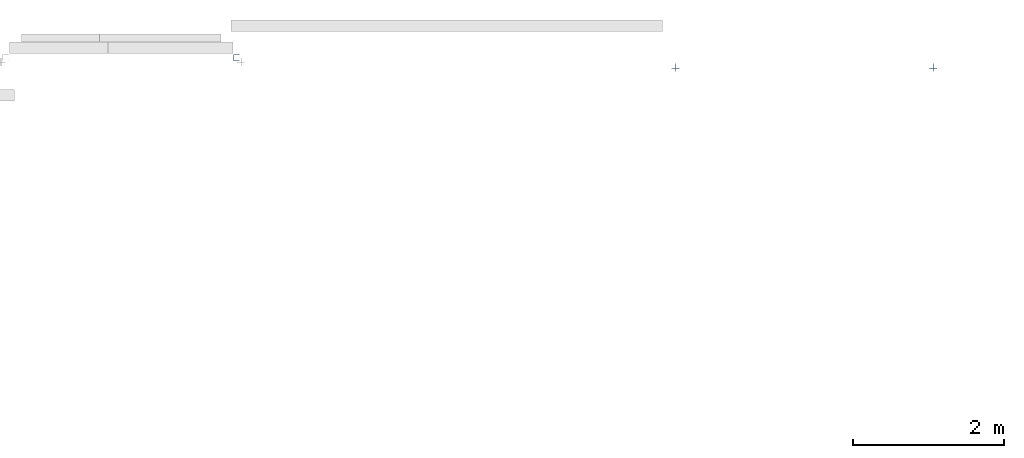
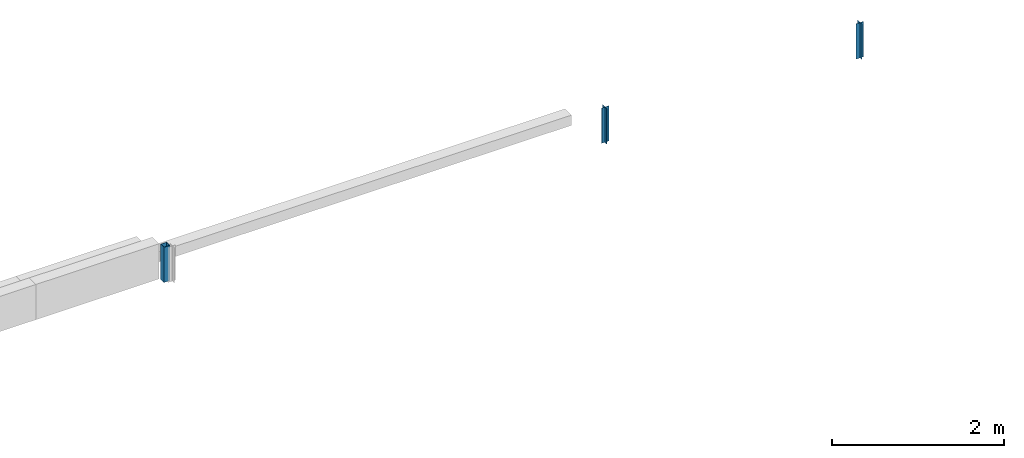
# One storey, part 3 of 3: 3 columns.
"""IFC2X3 building model written with IfcOpenShell, lengths in millimetres."""

from ifc_helpers import new_model, entity, si_unit, converted_unit, derived_unit, direction, frame, origin_with_axes, place, context, subcontext, project, spatial, faceted_brep, material, type_object, element, save


model = new_model("IFC2X3")

# Units and contexts
model_context = context("Model", 3, precision=0.01, world=frame((0.0, 4.29681676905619e-09, 0.0)), true_north=direction((4.01073788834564e-13, 1.0)))
plan_context = context("Plan", 3, precision=0.01, world=frame((0.0, 4.29681676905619e-09, 0.0)), true_north=direction((4.01073788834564e-13, 1.0)))
body_context = subcontext(model_context, "Body", "Model", "MODEL_VIEW")
ifc_project = project(units=[converted_unit("PLANEANGLEUNIT", "DEGREE", entity("IfcPositiveLengthMeasure", 0.0174532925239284), si_unit("PLANEANGLEUNIT", "RADIAN"), dimensions=[0, 0, 0, 0, 0, 0, 0]), si_unit("AREAUNIT", "SQUARE_METRE"), si_unit("LENGTHUNIT", "METRE", prefix="MILLI"), si_unit("MASSUNIT", "GRAM", prefix="KILO"), si_unit("POWERUNIT", "WATT"), si_unit("PRESSUREUNIT", "PASCAL"), si_unit("FORCEUNIT", "NEWTON", prefix="KILO"), si_unit("ELECTRICVOLTAGEUNIT", "VOLT"), si_unit("ELECTRICCURRENTUNIT", "AMPERE"), si_unit("THERMODYNAMICTEMPERATUREUNIT", "DEGREE_CELSIUS"), si_unit("TIMEUNIT", "SECOND"), si_unit("VOLUMEUNIT", "CUBIC_METRE"), derived_unit("LINEARVELOCITYUNIT", [(si_unit("LENGTHUNIT", "METRE"), 1), (si_unit("TIMEUNIT", "SECOND"), -1)]), derived_unit("VOLUMETRICFLOWRATEUNIT", [(si_unit("VOLUMEUNIT", "CUBIC_METRE"), 1), (si_unit("TIMEUNIT", "SECOND"), -1)]), derived_unit("THERMALTRANSMITTANCEUNIT", [(si_unit("POWERUNIT", "WATT"), 1), (si_unit("THERMODYNAMICTEMPERATUREUNIT", "KELVIN"), -1), (si_unit("AREAUNIT", "SQUARE_METRE"), -1)]), derived_unit("SOUNDPRESSUREUNIT", [(si_unit("PRESSUREUNIT", "PASCAL"), 1)])], contexts=[model_context, plan_context])

# Site, building, storey
site_placement = place(None, origin_with_axes())
site = spatial("IfcSite", under=ifc_project, at=site_placement, Name="ENGM", CompositionType="ELEMENT")
building_placement = place(site_placement, origin_with_axes())
building = spatial("IfcBuilding", under=site, at=building_placement, Name="TI", CompositionType="ELEMENT")
storey_placement = place(building_placement, frame((0.0, 0.0, 213700.0), z_axis=(0.0, 0.0, 1.0), x_axis=(1.0, 0.0, 0.0)))
storey = spatial("IfcBuildingStorey", under=building, at=storey_placement, Name="Nivå G - 2,0m", CompositionType="ELEMENT", Elevation=213700.0)

# Columns
ifc_material_1 = material(Name="_NSW Stål")
column_type_1 = type_object("IfcColumnType", Name="B222 - HUP:B222 - HUP - 80 x 80 x 5 mm", PredefinedType="COLUMN", material=ifc_material_1)
column_1_placement = place(storey_placement, frame((602059.506445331, 698973.999999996, -213700.0), z_axis=(0.0, 0.0, 1.0), x_axis=(1.0, 0.0, 0.0)))
element("IfcColumn", 1, at=column_1_placement, inside=storey, type_object=column_type_1, Name="B222 - HUP:B222 - HUP - 80 x 80 x 5 mm", ObjectType="B222 - HUP:B222 - HUP - 80 x 80 x 5 mm", context=body_context, shape_type="Brep", body=[
    faceted_brep([(34.9620193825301, 32.9341204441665, 214200.0), (35.0, 32.4999999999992, 214200.0), (35.0, 32.4999999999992, 213700.0), (34.9620193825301, 32.9341204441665, 213700.0), (35.0, -32.5000000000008, 214200.0), (35.0, -32.5000000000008, 213700.0), (34.9692208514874, -32.8910861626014, 214200.0), (34.9692208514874, -32.8910861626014, 213700.0), (34.8776412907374, -33.2725424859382, 214200.0), (34.8776412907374, -33.2725424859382, 213700.0), (34.7275163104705, -33.6349762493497, 214200.0), (34.7275163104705, -33.6349762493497, 213700.0), (34.5225424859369, -33.969463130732, 214200.0), (34.5225424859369, -33.969463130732, 213700.0), (34.2677669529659, -34.2677669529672, 214200.0), (34.2677669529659, -34.2677669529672, 213700.0), (33.9694631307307, -34.5225424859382, 214200.0), (33.9694631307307, -34.5225424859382, 213700.0), (33.6349762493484, -34.7275163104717, 214200.0), (33.6349762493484, -34.7275163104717, 213700.0), (33.2725424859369, -34.8776412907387, 214200.0), (33.2725424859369, -34.8776412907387, 213700.0), (32.8910861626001, -34.9692208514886, 214200.0), (32.8910861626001, -34.9692208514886, 213700.0), (32.4999999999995, -35.0000000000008, 214200.0), (32.4999999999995, -35.0000000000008, 213700.0), (-32.4999999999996, -35.0000000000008, 214200.0), (-32.4999999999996, -35.0000000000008, 213700.0), (-32.9341204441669, -34.9620193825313, 214200.0), (-32.9341204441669, -34.9620193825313, 213700.0), (-33.3550503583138, -34.8492315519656, 214200.0), (-33.3550503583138, -34.8492315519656, 213700.0), (-33.7499999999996, -34.6650635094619, 214200.0), (-33.7499999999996, -34.6650635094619, 213700.0), (-34.1069690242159, -34.4151111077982, 214200.0), (-34.1069690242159, -34.4151111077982, 213700.0), (-34.415111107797, -34.1069690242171, 214200.0), (-34.415111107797, -34.1069690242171, 213700.0), (-34.6650635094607, -33.7500000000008, 214200.0), (-34.6650635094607, -33.7500000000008, 213700.0), (-34.8492315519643, -33.355050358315, 214200.0), (-34.8492315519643, -33.355050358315, 213700.0), (-34.9620193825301, -32.9341204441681, 214200.0), (-34.9620193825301, -32.9341204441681, 213700.0), (-35.0, -32.5000000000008, 214200.0), (-35.0, -32.5000000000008, 213700.0), (-35.0, 32.4999999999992, 214200.0), (-35.0, 32.4999999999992, 213700.0), (-34.9620193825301, 32.9341204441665, 214200.0), (-34.9620193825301, 32.9341204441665, 213700.0), (-34.8492315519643, 33.3550503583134, 214200.0), (-34.8492315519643, 33.3550503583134, 213700.0), (-34.6650635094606, 33.7499999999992, 214200.0), (-34.6650635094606, 33.7499999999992, 213700.0), (-34.415111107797, 34.1069690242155, 214200.0), (-34.415111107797, 34.1069690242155, 213700.0), (-34.1069690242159, 34.4151111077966, 214200.0), (-34.1069690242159, 34.4151111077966, 213700.0), (-33.7499999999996, 34.6650635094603, 214200.0), (-33.7499999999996, 34.6650635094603, 213700.0), (-33.3550503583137, 34.8492315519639, 214200.0), (-33.3550503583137, 34.8492315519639, 213700.0), (-32.9341204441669, 34.9620193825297, 214200.0), (-32.9341204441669, 34.9620193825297, 213700.0), (-32.4999999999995, 35.0, 214200.0), (-32.4999999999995, 35.0, 213700.0), (32.4999999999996, 35.0, 214200.0), (32.4999999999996, 35.0, 213700.0), (32.9341204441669, 34.9620193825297, 214200.0), (32.9341204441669, 34.9620193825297, 213700.0), (33.3550503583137, 34.8492315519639, 214200.0), (33.3550503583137, 34.8492315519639, 213700.0), (33.7499999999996, 34.6650635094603, 214200.0), (33.7499999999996, 34.6650635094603, 213700.0), (34.1069690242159, 34.4151111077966, 214200.0), (34.1069690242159, 34.4151111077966, 213700.0), (34.415111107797, 34.1069690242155, 214200.0), (34.415111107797, 34.1069690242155, 213700.0), (34.6650635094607, 33.7499999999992, 214200.0), (34.6650635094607, 33.7499999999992, 213700.0), (34.8492315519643, 33.3550503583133, 214200.0), (34.8492315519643, 33.3550503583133, 213700.0), (35.0, 40.0, 214200.0), (-35.0000000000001, 40.0, 214200.0), (-35.0000000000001, 40.0, 213700.0), (35.0, 40.0, 213700.0), (-35.8682408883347, 39.924038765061, 214200.0), (-35.8682408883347, 39.924038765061, 213700.0), (-36.7101007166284, 39.6984631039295, 214200.0), (-36.7101007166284, 39.6984631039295, 213700.0), (-37.5, 39.3301270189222, 214200.0), (-37.5, 39.3301270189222, 213700.0), (-38.2139380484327, 38.8302222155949, 214200.0), (-38.2139380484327, 38.8302222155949, 213700.0), (-38.8302222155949, 38.2139380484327, 214200.0), (-38.8302222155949, 38.2139380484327, 213700.0), (-39.3301270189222, 37.5, 214200.0), (-39.3301270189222, 37.5, 213700.0), (-39.6984631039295, 36.7101007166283, 214200.0), (-39.6984631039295, 36.7101007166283, 213700.0), (-39.924038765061, 35.8682408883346, 214200.0), (-39.924038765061, 35.8682408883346, 213700.0), (-40.0, 35.0, 214200.0), (-40.0, 35.0, 213700.0), (-40.0, -35.0, 214200.0), (-40.0, -35.0, 213700.0), (-39.924038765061, -35.8682408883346, 214200.0), (-39.924038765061, -35.8682408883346, 213700.0), (-39.6984631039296, -36.7101007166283, 214200.0), (-39.6984631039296, -36.7101007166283, 213700.0), (-39.3301270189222, -37.5, 214200.0), (-39.3301270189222, -37.5, 213700.0), (-38.8302222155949, -38.2139380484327, 214200.0), (-38.8302222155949, -38.2139380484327, 213700.0), (-38.2139380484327, -38.8302222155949, 214200.0), (-38.2139380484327, -38.8302222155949, 213700.0), (-37.5, -39.3301270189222, 214200.0), (-37.5, -39.3301270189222, 213700.0), (-36.7101007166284, -39.6984631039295, 214200.0), (-36.7101007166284, -39.6984631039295, 213700.0), (-35.8682408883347, -39.924038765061, 214200.0), (-35.8682408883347, -39.924038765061, 213700.0), (-35.0, -40.0, 214200.0), (-35.0, -40.0, 213700.0), (35.0, -40.0, 214200.0), (35.0, -40.0, 213700.0), (35.7821723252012, -39.9384417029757, 214200.0), (35.7821723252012, -39.9384417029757, 213700.0), (36.5450849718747, -39.7552825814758, 214200.0), (36.5450849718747, -39.7552825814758, 213700.0), (37.2699524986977, -39.4550326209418, 214200.0), (37.2699524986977, -39.4550326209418, 213700.0), (37.9389262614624, -39.0450849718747, 214200.0), (37.9389262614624, -39.0450849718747, 213700.0), (38.5355339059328, -38.5355339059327, 214200.0), (38.5355339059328, -38.5355339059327, 213700.0), (39.0450849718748, -37.9389262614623, 214200.0), (39.0450849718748, -37.9389262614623, 213700.0), (39.4550326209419, -37.2699524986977, 214200.0), (39.4550326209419, -37.2699524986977, 213700.0), (39.7552825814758, -36.5450849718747, 214200.0), (39.7552825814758, -36.5450849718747, 213700.0), (39.9384417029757, -35.7821723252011, 214200.0), (39.9384417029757, -35.7821723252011, 213700.0), (40.0, -35.0, 214200.0), (40.0, -35.0, 213700.0), (40.0, 35.0000000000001, 214200.0), (40.0, 35.0000000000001, 213700.0), (39.924038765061, 35.8682408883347, 214200.0), (39.924038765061, 35.8682408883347, 213700.0), (39.6984631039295, 36.7101007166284, 214200.0), (39.6984631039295, 36.7101007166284, 213700.0), (39.3301270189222, 37.5, 214200.0), (39.3301270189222, 37.5, 213700.0), (38.8302222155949, 38.2139380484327, 214200.0), (38.8302222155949, 38.2139380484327, 213700.0), (38.2139380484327, 38.8302222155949, 214200.0), (38.2139380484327, 38.8302222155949, 213700.0), (37.5, 39.3301270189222, 214200.0), (37.5, 39.3301270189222, 213700.0), (36.7101007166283, 39.6984631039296, 214200.0), (36.7101007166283, 39.6984631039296, 213700.0), (35.8682408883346, 39.924038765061, 214200.0), (35.8682408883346, 39.924038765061, 213700.0)], [[[0, 1, 2, 3]], [[1, 4, 5, 2]], [[4, 6, 7, 5]], [[6, 8, 9, 7]], [[8, 10, 11, 9]], [[10, 12, 13, 11]], [[12, 14, 15, 13]], [[14, 16, 17, 15]], [[16, 18, 19, 17]], [[18, 20, 21, 19]], [[20, 22, 23, 21]], [[22, 24, 25, 23]], [[24, 26, 27, 25]], [[26, 28, 29, 27]], [[28, 30, 31, 29]], [[30, 32, 33, 31]], [[32, 34, 35, 33]], [[34, 36, 37, 35]], [[36, 38, 39, 37]], [[38, 40, 41, 39]], [[40, 42, 43, 41]], [[42, 44, 45, 43]], [[44, 46, 47, 45]], [[46, 48, 49, 47]], [[48, 50, 51, 49]], [[50, 52, 53, 51]], [[52, 54, 55, 53]], [[54, 56, 57, 55]], [[56, 58, 59, 57]], [[58, 60, 61, 59]], [[60, 62, 63, 61]], [[62, 64, 65, 63]], [[64, 66, 67, 65]], [[66, 68, 69, 67]], [[68, 70, 71, 69]], [[70, 72, 73, 71]], [[72, 74, 75, 73]], [[74, 76, 77, 75]], [[76, 78, 79, 77]], [[78, 80, 81, 79]], [[80, 0, 3, 81]], [[82, 83, 84, 85]], [[83, 86, 87, 84]], [[86, 88, 89, 87]], [[88, 90, 91, 89]], [[90, 92, 93, 91]], [[92, 94, 95, 93]], [[94, 96, 97, 95]], [[96, 98, 99, 97]], [[98, 100, 101, 99]], [[100, 102, 103, 101]], [[102, 104, 105, 103]], [[104, 106, 107, 105]], [[106, 108, 109, 107]], [[108, 110, 111, 109]], [[110, 112, 113, 111]], [[112, 114, 115, 113]], [[114, 116, 117, 115]], [[116, 118, 119, 117]], [[118, 120, 121, 119]], [[120, 122, 123, 121]], [[122, 124, 125, 123]], [[124, 126, 127, 125]], [[126, 128, 129, 127]], [[128, 130, 131, 129]], [[130, 132, 133, 131]], [[132, 134, 135, 133]], [[134, 136, 137, 135]], [[136, 138, 139, 137]], [[138, 140, 141, 139]], [[140, 142, 143, 141]], [[142, 144, 145, 143]], [[144, 146, 147, 145]], [[146, 148, 149, 147]], [[148, 150, 151, 149]], [[150, 152, 153, 151]], [[152, 154, 155, 153]], [[154, 156, 157, 155]], [[156, 158, 159, 157]], [[158, 160, 161, 159]], [[160, 162, 163, 161]], [[162, 82, 85, 163]], [[85, 84, 87, 89, 91, 93, 95, 97, 99, 101, 103, 105, 107, 109, 111, 113, 115, 117, 119, 121, 123, 125, 127, 129, 131, 133, 135, 137, 139, 141, 143, 145, 147, 149, 151, 153, 155, 157, 159, 161, 163], [3, 2, 5, 7, 9, 11, 13, 15, 17, 19, 21, 23, 25, 27, 29, 31, 33, 35, 37, 39, 41, 43, 45, 47, 49, 51, 53, 55, 57, 59, 61, 63, 65, 67, 69, 71, 73, 75, 77, 79, 81]], [[162, 160, 158, 156, 154, 152, 150, 148, 146, 144, 142, 140, 138, 136, 134, 132, 130, 128, 126, 124, 122, 120, 118, 116, 114, 112, 110, 108, 106, 104, 102, 100, 98, 96, 94, 92, 90, 88, 86, 83, 82], [80, 78, 76, 74, 72, 70, 68, 66, 64, 62, 60, 58, 56, 54, 52, 50, 48, 46, 44, 42, 40, 38, 36, 34, 32, 30, 28, 26, 24, 22, 20, 18, 16, 14, 12, 10, 8, 6, 4, 1, 0]]], orient=[[False], [False], [False], [False], [False], [False], [False], [False], [False], [False], [False], [False], [False], [False], [False], [False], [False], [False], [False], [False], [False], [False], [False], [False], [False], [False], [False], [False], [False], [False], [False], [False], [False], [False], [False], [False], [False], [False], [False], [False], [False], [False], [False], [False], [False], [False], [False], [False], [False], [False], [False], [False], [False], [False], [False], [False], [False], [False], [False], [False], [False], [False], [False], [False], [False], [False], [False], [False], [False], [False], [False], [False], [False], [False], [False], [False], [False], [False], [False], [False], [False], [False], [False, False], [False, False]]),
    faceted_brep([(-35.0, -35.0, 214200.0), (-35.0, 35.0, 214200.0), (-35.0, 35.0, 213700.0), (-35.0, -35.0, 213700.0), (35.0, 35.0, 214200.0), (35.0, 35.0, 213700.0), (35.0, -35.0, 214200.0), (35.0, -35.0, 213700.0), (40.0, 40.0, 214200.0), (-40.0, 40.0, 214200.0), (-40.0, 40.0, 213700.0), (40.0, 40.0, 213700.0), (-40.0, -40.0, 214200.0), (-40.0, -40.0, 213700.0), (40.0, -40.0, 214200.0), (40.0, -40.0, 213700.0)], [[[0, 1, 2, 3]], [[1, 4, 5, 2]], [[4, 6, 7, 5]], [[6, 0, 3, 7]], [[8, 9, 10, 11]], [[9, 12, 13, 10]], [[12, 14, 15, 13]], [[14, 8, 11, 15]], [[11, 10, 13, 15], [3, 2, 5, 7]], [[14, 12, 9, 8], [6, 4, 1, 0]]], orient=[[False], [False], [False], [False], [False], [False], [False], [False], [False, False], [False, False]]),
])
ifc_material_2 = material(Name="_NSW Aluminium")
column_type_2 = type_object("IfcColumnType", Name="A222 - Ekstrudert Aluminiumsprofil - Hjørneprofil - Hel:A222 - Ekstrudert Aluminiumsprofil", PredefinedType="COLUMN", material=ifc_material_2)
column_2_placement = place(storey_placement, frame((607902.006836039, 698851.99999989, -213700.0), z_axis=(0.0, 0.0, 1.0), x_axis=(-1.0, 0.0, 0.0)))
element("IfcColumn", 2, at=column_2_placement, inside=storey, type_object=column_type_2, Name="A222 - Ekstrudert Aluminiumsprofil - Hjørneprofil - Hel:A222 - Ekstrudert Aluminiumsprofil", ObjectType="A222 - Ekstrudert Aluminiumsprofil - Hjørneprofil - Hel:A222 - Ekstrudert Aluminiumsprofil", context=body_context, shape_type="Brep", body=[
    faceted_brep([(15.0000000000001, 60.0000000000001, 214200.0), (15.0000000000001, 19.9831817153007, 214200.0), (15.0000000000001, 19.9831817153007, 213700.0), (15.0000000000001, 60.0000000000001, 213700.0), (18.9636585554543, 57.509970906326, 214200.0), (18.8555290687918, 57.960362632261, 214200.0), (18.8555290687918, 57.960362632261, 213700.0), (18.9636585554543, 57.509970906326, 213700.0), (18.6782740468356, 58.3882941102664, 214200.0), (18.6782740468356, 58.3882941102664, 213700.0), (18.4362580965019, 58.7832282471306, 214200.0), (18.4362580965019, 58.7832282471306, 213700.0), (18.1354404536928, 59.1354404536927, 214200.0), (18.1354404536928, 59.1354404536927, 213700.0), (17.7832282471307, 59.4362580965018, 214200.0), (17.7832282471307, 59.4362580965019, 213700.0), (17.3882941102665, 59.6782740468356, 214200.0), (17.3882941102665, 59.6782740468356, 213700.0), (16.9603626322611, 59.8555290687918, 214200.0), (16.9603626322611, 59.8555290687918, 213700.0), (16.5099709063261, 59.9636585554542, 214200.0), (16.5099709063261, 59.9636585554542, 213700.0), (16.0482090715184, 60.0, 214200.0), (16.0482090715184, 60.0, 213700.0), (14.9850632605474, 19.8124540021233, 214200.0), (14.9850632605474, 19.8124540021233, 213700.0), (14.9407068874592, 19.6469137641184, 214200.0), (14.9407068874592, 19.6469137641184, 213700.0), (14.8682786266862, 19.4915908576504, 214200.0), (14.8682786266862, 19.4915908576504, 213700.0), (14.7699791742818, 19.3512046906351, 214200.0), (14.7699791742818, 19.3512046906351, 213700.0), (14.6487953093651, 19.2300208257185, 214200.0), (14.6487953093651, 19.2300208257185, 213700.0), (14.5084091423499, 19.131721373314, 214200.0), (14.5084091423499, 19.131721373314, 213700.0), (14.3530862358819, 19.0592931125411, 214200.0), (14.3530862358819, 19.0592931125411, 213700.0), (14.187545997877, 19.0149367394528, 214200.0), (14.187545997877, 19.0149367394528, 213700.0), (14.0168182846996, 19.0000000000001, 214200.0), (14.0168182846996, 19.0000000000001, 213700.0), (-40.0, 19.0000000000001, 214200.0), (-40.0, 19.0000000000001, 213700.0), (-40.0, 15.0000000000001, 214200.0), (-40.0, 15.0000000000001, 213700.0), (15.0000000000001, 15.0000000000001, 214200.0), (15.0000000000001, 15.0000000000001, 213700.0), (15.0000000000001, -39.9999999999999, 214200.0), (15.0000000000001, -39.9999999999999, 213700.0), (19.0000000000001, -39.9999999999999, 214200.0), (19.0000000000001, -39.9999999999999, 213700.0), (19.0000000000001, 13.9657184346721, 214200.0), (19.0000000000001, 13.9657184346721, 213700.0), (19.0157130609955, 14.1453195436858, 214200.0), (19.0157130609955, 14.1453195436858, 213700.0), (19.0623748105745, 14.3194635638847, 214200.0), (19.0623748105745, 14.3194635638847, 213700.0), (19.1385674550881, 14.4828592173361, 214200.0), (19.1385674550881, 14.4828592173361, 213700.0), (19.2419759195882, 14.6305418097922, 214200.0), (19.2419759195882, 14.6305418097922, 213700.0), (19.3694581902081, 14.7580240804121, 214200.0), (19.3694581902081, 14.7580240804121, 213700.0), (19.5171407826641, 14.8614325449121, 214200.0), (19.5171407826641, 14.8614325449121, 213700.0), (19.6805364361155, 14.9376251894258, 214200.0), (19.6805364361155, 14.9376251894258, 213700.0), (19.8546804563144, 14.9842869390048, 214200.0), (19.8546804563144, 14.9842869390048, 213700.0), (20.0342815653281, 15.0000000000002, 214200.0), (20.0342815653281, 15.0000000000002, 213700.0), (60.0000000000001, 15.0000000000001, 214200.0), (60.0, 15.0000000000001, 213700.0), (60.0, 16.0087872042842, 214200.0), (60.0, 16.0087872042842, 213700.0), (59.9631732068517, 16.4767159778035, 214200.0), (59.9631732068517, 16.4767159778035, 213700.0), (59.8535996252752, 16.9331227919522, 214200.0), (59.8535996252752, 16.9331227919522, 213700.0), (59.6739773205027, 17.3667693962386, 214200.0), (59.6739773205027, 17.3667693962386, 213700.0), (59.4287291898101, 17.7669779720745, 214200.0), (59.4287291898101, 17.7669779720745, 213700.0), (59.1238940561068, 18.1238940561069, 214200.0), (59.1238940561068, 18.1238940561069, 213700.0), (58.7669779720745, 18.4287291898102, 214200.0), (58.7669779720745, 18.4287291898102, 213700.0), (58.3667693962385, 18.6739773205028, 214200.0), (58.3667693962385, 18.6739773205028, 213700.0), (57.9331227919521, 18.8535996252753, 214200.0), (57.9331227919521, 18.8535996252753, 213700.0), (57.4767159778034, 18.9631732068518, 214200.0), (57.4767159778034, 18.9631732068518, 213700.0), (57.0087872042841, 19.0000000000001, 214200.0), (57.0087872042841, 19.0000000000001, 213700.0), (19.9987430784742, 19.0000000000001, 214200.0), (19.9987430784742, 19.0000000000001, 213700.0), (19.8253131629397, 19.0151731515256, 214200.0), (19.8253131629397, 19.0151731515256, 213700.0), (19.657152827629, 19.0602315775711, 214200.0), (19.657152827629, 19.0602315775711, 213700.0), (19.4993715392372, 19.1338062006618, 214200.0), (19.4993715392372, 19.1338062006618, 213700.0), (19.3567634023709, 19.2336614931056, 214200.0), (19.3567634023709, 19.2336614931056, 213700.0), (19.2336614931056, 19.3567634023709, 214200.0), (19.2336614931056, 19.3567634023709, 213700.0), (19.1338062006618, 19.4993715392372, 214200.0), (19.1338062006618, 19.4993715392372, 213700.0), (19.0602315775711, 19.657152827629, 214200.0), (19.0602315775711, 19.657152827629, 213700.0), (19.0151731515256, 19.8253131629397, 214200.0), (19.0151731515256, 19.8253131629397, 213700.0), (19.0000000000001, 19.9987430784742, 214200.0), (19.0000000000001, 19.9987430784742, 213700.0), (19.0000000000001, 57.0482090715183, 214200.0), (19.0000000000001, 57.0482090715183, 213700.0)], [[[0, 1, 2, 3]], [[4, 5, 6, 7]], [[5, 8, 9, 6]], [[8, 10, 11, 9]], [[10, 12, 13, 11]], [[12, 14, 15, 13]], [[14, 16, 17, 15]], [[16, 18, 19, 17]], [[18, 20, 21, 19]], [[20, 22, 23, 21]], [[22, 0, 3, 23]], [[1, 24, 25, 2]], [[24, 26, 27, 25]], [[26, 28, 29, 27]], [[28, 30, 31, 29]], [[30, 32, 33, 31]], [[32, 34, 35, 33]], [[34, 36, 37, 35]], [[36, 38, 39, 37]], [[38, 40, 41, 39]], [[40, 42, 43, 41]], [[42, 44, 45, 43]], [[44, 46, 47, 45]], [[46, 48, 49, 47]], [[48, 50, 51, 49]], [[50, 52, 53, 51]], [[52, 54, 55, 53]], [[54, 56, 57, 55]], [[56, 58, 59, 57]], [[58, 60, 61, 59]], [[60, 62, 63, 61]], [[62, 64, 65, 63]], [[64, 66, 67, 65]], [[66, 68, 69, 67]], [[68, 70, 71, 69]], [[70, 72, 73, 71]], [[72, 74, 75, 73]], [[74, 76, 77, 75]], [[76, 78, 79, 77]], [[78, 80, 81, 79]], [[80, 82, 83, 81]], [[82, 84, 85, 83]], [[84, 86, 87, 85]], [[86, 88, 89, 87]], [[88, 90, 91, 89]], [[90, 92, 93, 91]], [[92, 94, 95, 93]], [[94, 96, 97, 95]], [[96, 98, 99, 97]], [[98, 100, 101, 99]], [[100, 102, 103, 101]], [[102, 104, 105, 103]], [[104, 106, 107, 105]], [[106, 108, 109, 107]], [[108, 110, 111, 109]], [[110, 112, 113, 111]], [[112, 114, 115, 113]], [[114, 116, 117, 115]], [[116, 4, 7, 117]], [[3, 2, 25, 27, 29, 31, 33, 35, 37, 39, 41, 43, 45, 47, 49, 51, 53, 55, 57, 59, 61, 63, 65, 67, 69, 71, 73, 75, 77, 79, 81, 83, 85, 87, 89, 91, 93, 95, 97, 99, 101, 103, 105, 107, 109, 111, 113, 115, 117, 7, 6, 9, 11, 13, 15, 17, 19, 21, 23]], [[22, 20, 18, 16, 14, 12, 10, 8, 5, 4, 116, 114, 112, 110, 108, 106, 104, 102, 100, 98, 96, 94, 92, 90, 88, 86, 84, 82, 80, 78, 76, 74, 72, 70, 68, 66, 64, 62, 60, 58, 56, 54, 52, 50, 48, 46, 44, 42, 40, 38, 36, 34, 32, 30, 28, 26, 24, 1, 0]]], orient=[[False], [False], [False], [False], [False], [False], [False], [False], [False], [False], [False], [False], [False], [False], [False], [False], [False], [False], [False], [False], [False], [False], [False], [False], [False], [False], [False], [False], [False], [False], [False], [False], [False], [False], [False], [False], [False], [False], [False], [False], [False], [False], [False], [False], [False], [False], [False], [False], [False], [False], [False], [False], [False], [False], [False], [False], [False], [False], [False], [False], [False]]),
])
column_type_3 = type_object("IfcColumnType", Name="A222 - Ekstrudert Aluminiumsprofil - Hjørneprofil - Hel:A222 - Ekstrudert Aluminiumsprofil", PredefinedType="COLUMN", material=ifc_material_2)
column_3_placement = place(storey_placement, frame((611298.006836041, 698851.999999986, -213700.0), z_axis=(0.0, 0.0, 1.0), x_axis=(1.0, 0.0, 0.0)))
element("IfcColumn", 3, at=column_3_placement, inside=storey, type_object=column_type_3, Name="A222 - Ekstrudert Aluminiumsprofil - Hjørneprofil - Hel:A222 - Ekstrudert Aluminiumsprofil", ObjectType="A222 - Ekstrudert Aluminiumsprofil - Hjørneprofil - Hel:A222 - Ekstrudert Aluminiumsprofil", context=body_context, shape_type="Brep", body=[
    faceted_brep([(15.0000000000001, -60.0000000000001, 214200.0), (16.0482090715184, -60.0, 214200.0), (16.0482090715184, -60.0, 213700.0), (15.0000000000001, -60.0000000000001, 213700.0), (16.5099709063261, -59.9636585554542, 214200.0), (16.5099709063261, -59.9636585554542, 213700.0), (16.9603626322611, -59.8555290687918, 214200.0), (16.9603626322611, -59.8555290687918, 213700.0), (17.3882941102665, -59.6782740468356, 214200.0), (17.3882941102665, -59.6782740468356, 213700.0), (17.7832282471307, -59.4362580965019, 214200.0), (17.7832282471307, -59.4362580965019, 213700.0), (18.1354404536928, -59.1354404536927, 214200.0), (18.1354404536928, -59.1354404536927, 213700.0), (18.4362580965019, -58.7832282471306, 214200.0), (18.4362580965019, -58.7832282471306, 213700.0), (18.6782740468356, -58.3882941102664, 214200.0), (18.6782740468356, -58.3882941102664, 213700.0), (18.8555290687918, -57.960362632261, 214200.0), (18.8555290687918, -57.960362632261, 213700.0), (18.9636585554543, -57.509970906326, 214200.0), (18.9636585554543, -57.509970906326, 213700.0), (19.0000000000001, -57.0482090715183, 214200.0), (19.0000000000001, -57.0482090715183, 213700.0), (19.0000000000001, -19.9987430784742, 214200.0), (19.0000000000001, -19.9987430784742, 213700.0), (19.0151731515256, -19.8253131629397, 214200.0), (19.0151731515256, -19.8253131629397, 213700.0), (19.0602315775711, -19.657152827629, 214200.0), (19.0602315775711, -19.657152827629, 213700.0), (19.1338062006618, -19.4993715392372, 214200.0), (19.1338062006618, -19.4993715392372, 213700.0), (19.2336614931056, -19.3567634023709, 214200.0), (19.2336614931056, -19.3567634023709, 213700.0), (19.3567634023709, -19.2336614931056, 214200.0), (19.3567634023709, -19.2336614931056, 213700.0), (19.4993715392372, -19.1338062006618, 214200.0), (19.4993715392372, -19.1338062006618, 213700.0), (19.657152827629, -19.0602315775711, 214200.0), (19.657152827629, -19.0602315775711, 213700.0), (19.8253131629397, -19.0151731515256, 214200.0), (19.8253131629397, -19.0151731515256, 213700.0), (19.9987430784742, -19.0000000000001, 214200.0), (19.9987430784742, -19.0000000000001, 213700.0), (57.0087872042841, -19.0000000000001, 214200.0), (57.0087872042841, -19.0000000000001, 213700.0), (57.4767159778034, -18.9631732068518, 214200.0), (57.4767159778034, -18.9631732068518, 213700.0), (57.9331227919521, -18.8535996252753, 214200.0), (57.9331227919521, -18.8535996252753, 213700.0), (58.3667693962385, -18.6739773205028, 214200.0), (58.3667693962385, -18.6739773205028, 213700.0), (58.7669779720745, -18.4287291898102, 214200.0), (58.7669779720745, -18.4287291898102, 213700.0), (59.1238940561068, -18.1238940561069, 214200.0), (59.1238940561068, -18.1238940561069, 213700.0), (59.4287291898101, -17.7669779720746, 214200.0), (59.4287291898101, -17.7669779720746, 213700.0), (59.6739773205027, -17.3667693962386, 214200.0), (59.6739773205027, -17.3667693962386, 213700.0), (59.8535996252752, -16.9331227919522, 214200.0), (59.8535996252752, -16.9331227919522, 213700.0), (59.9631732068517, -16.4767159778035, 214200.0), (59.9631732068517, -16.4767159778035, 213700.0), (60.0, -16.0087872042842, 214200.0), (60.0, -16.0087872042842, 213700.0), (60.0000000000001, -15.0000000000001, 214200.0), (60.0000000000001, -15.0000000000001, 213700.0), (20.0342815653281, -15.0000000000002, 214200.0), (20.0342815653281, -15.0000000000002, 213700.0), (19.8546804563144, -14.9842869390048, 214200.0), (19.8546804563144, -14.9842869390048, 213700.0), (19.6805364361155, -14.9376251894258, 214200.0), (19.6805364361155, -14.9376251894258, 213700.0), (19.5171407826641, -14.8614325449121, 214200.0), (19.5171407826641, -14.8614325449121, 213700.0), (19.3694581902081, -14.7580240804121, 214200.0), (19.3694581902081, -14.7580240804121, 213700.0), (19.2419759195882, -14.6305418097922, 214200.0), (19.2419759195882, -14.6305418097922, 213700.0), (19.1385674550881, -14.4828592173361, 214200.0), (19.1385674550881, -14.4828592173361, 213700.0), (19.0623748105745, -14.3194635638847, 214200.0), (19.0623748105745, -14.3194635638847, 213700.0), (19.0157130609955, -14.1453195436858, 214200.0), (19.0157130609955, -14.1453195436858, 213700.0), (19.0000000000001, -13.9657184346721, 214200.0), (19.0000000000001, -13.9657184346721, 213700.0), (19.0000000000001, 39.9999999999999, 214200.0), (19.0000000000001, 39.9999999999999, 213700.0), (15.0000000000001, 39.9999999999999, 214200.0), (15.0000000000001, 39.9999999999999, 213700.0), (15.0000000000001, -15.0000000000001, 214200.0), (15.0000000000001, -15.0000000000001, 213700.0), (-40.0, -15.0000000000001, 214200.0), (-40.0, -15.0000000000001, 213700.0), (-40.0, -19.0000000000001, 214200.0), (-40.0, -19.0000000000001, 213700.0), (14.0168182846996, -19.0000000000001, 214200.0), (14.0168182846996, -19.0000000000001, 213700.0), (14.187545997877, -19.0149367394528, 214200.0), (14.187545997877, -19.0149367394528, 213700.0), (14.3530862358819, -19.0592931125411, 214200.0), (14.3530862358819, -19.0592931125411, 213700.0), (14.5084091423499, -19.131721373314, 214200.0), (14.5084091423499, -19.131721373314, 213700.0), (14.6487953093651, -19.2300208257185, 214200.0), (14.6487953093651, -19.2300208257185, 213700.0), (14.7699791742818, -19.3512046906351, 214200.0), (14.7699791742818, -19.3512046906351, 213700.0), (14.8682786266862, -19.4915908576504, 214200.0), (14.8682786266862, -19.4915908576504, 213700.0), (14.9407068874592, -19.6469137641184, 214200.0), (14.9407068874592, -19.6469137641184, 213700.0), (14.9850632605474, -19.8124540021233, 214200.0), (14.9850632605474, -19.8124540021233, 213700.0), (15.0000000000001, -19.9831817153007, 214200.0), (15.0000000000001, -19.9831817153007, 213700.0)], [[[0, 1, 2, 3]], [[1, 4, 5, 2]], [[4, 6, 7, 5]], [[6, 8, 9, 7]], [[8, 10, 11, 9]], [[10, 12, 13, 11]], [[12, 14, 15, 13]], [[14, 16, 17, 15]], [[16, 18, 19, 17]], [[18, 20, 21, 19]], [[20, 22, 23, 21]], [[22, 24, 25, 23]], [[24, 26, 27, 25]], [[26, 28, 29, 27]], [[28, 30, 31, 29]], [[30, 32, 33, 31]], [[32, 34, 35, 33]], [[34, 36, 37, 35]], [[36, 38, 39, 37]], [[38, 40, 41, 39]], [[40, 42, 43, 41]], [[42, 44, 45, 43]], [[44, 46, 47, 45]], [[46, 48, 49, 47]], [[48, 50, 51, 49]], [[50, 52, 53, 51]], [[52, 54, 55, 53]], [[54, 56, 57, 55]], [[56, 58, 59, 57]], [[58, 60, 61, 59]], [[60, 62, 63, 61]], [[62, 64, 65, 63]], [[64, 66, 67, 65]], [[66, 68, 69, 67]], [[68, 70, 71, 69]], [[70, 72, 73, 71]], [[72, 74, 75, 73]], [[74, 76, 77, 75]], [[76, 78, 79, 77]], [[78, 80, 81, 79]], [[80, 82, 83, 81]], [[82, 84, 85, 83]], [[84, 86, 87, 85]], [[86, 88, 89, 87]], [[88, 90, 91, 89]], [[90, 92, 93, 91]], [[92, 94, 95, 93]], [[94, 96, 97, 95]], [[96, 98, 99, 97]], [[98, 100, 101, 99]], [[100, 102, 103, 101]], [[102, 104, 105, 103]], [[104, 106, 107, 105]], [[106, 108, 109, 107]], [[108, 110, 111, 109]], [[110, 112, 113, 111]], [[112, 114, 115, 113]], [[114, 116, 117, 115]], [[116, 0, 3, 117]], [[3, 2, 5, 7, 9, 11, 13, 15, 17, 19, 21, 23, 25, 27, 29, 31, 33, 35, 37, 39, 41, 43, 45, 47, 49, 51, 53, 55, 57, 59, 61, 63, 65, 67, 69, 71, 73, 75, 77, 79, 81, 83, 85, 87, 89, 91, 93, 95, 97, 99, 101, 103, 105, 107, 109, 111, 113, 115, 117]], [[116, 114, 112, 110, 108, 106, 104, 102, 100, 98, 96, 94, 92, 90, 88, 86, 84, 82, 80, 78, 76, 74, 72, 70, 68, 66, 64, 62, 60, 58, 56, 54, 52, 50, 48, 46, 44, 42, 40, 38, 36, 34, 32, 30, 28, 26, 24, 22, 20, 18, 16, 14, 12, 10, 8, 6, 4, 1, 0]]], orient=[[False], [False], [False], [False], [False], [False], [False], [False], [False], [False], [False], [False], [False], [False], [False], [False], [False], [False], [False], [False], [False], [False], [False], [False], [False], [False], [False], [False], [False], [False], [False], [False], [False], [False], [False], [False], [False], [False], [False], [False], [False], [False], [False], [False], [False], [False], [False], [False], [False], [False], [False], [False], [False], [False], [False], [False], [False], [False], [False], [False], [False]]),
])

save(model, "model.ifc")
